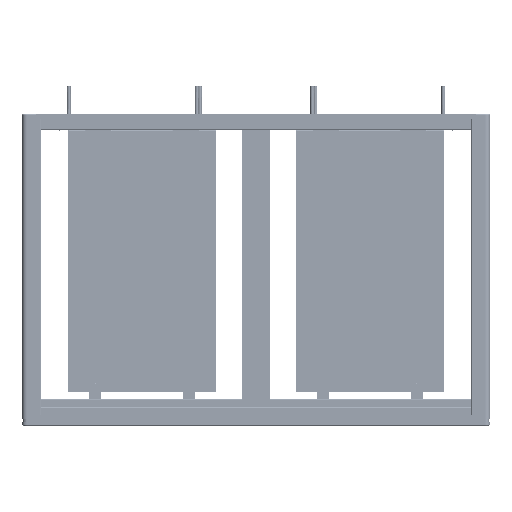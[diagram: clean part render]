
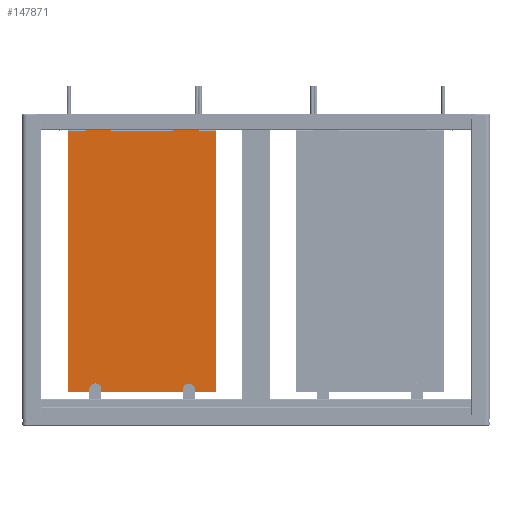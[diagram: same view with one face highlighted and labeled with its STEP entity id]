
A CAD part, left-side view. The second image highlights one B-rep face of the part: STEP entity #147871.
In plain terms, the highlighted planar face has unit normal (-1, 0, 0) as drawn and (0, 1, 0) by its records, which use the part's own axes.
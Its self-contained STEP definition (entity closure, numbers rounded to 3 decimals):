
#146514=CARTESIAN_POINT('',(-235.,4.,-417.));
#146515=DIRECTION('',(0.,-1.,0.));
#146516=DIRECTION('',(-1.,0.,0.));
#146517=AXIS2_PLACEMENT_3D('',#146514,#146515,#146516);
#146522=DIRECTION('',(1.,0.,0.));
#146523=VECTOR('',#146522,52.);
#146524=CARTESIAN_POINT('',(-235.,4.,-419.));
#146525=LINE('',#146524,#146523);
#146529=CARTESIAN_POINT('',(-183.,4.,-423.));
#146530=DIRECTION('',(0.,1.,0.));
#146531=DIRECTION('',(0.,0.,1.));
#146532=AXIS2_PLACEMENT_3D('',#146529,#146530,#146531);
#146537=DIRECTION('',(0.,0.,-1.));
#146538=VECTOR('',#146537,2.);
#146539=CARTESIAN_POINT('',(-179.,4.,
-423.));
#146540=LINE('',#146539,#146538);
#146544=CARTESIAN_POINT('',(-177.,4.,-425.));
#146545=DIRECTION('',(0.,-1.,0.));
#146546=DIRECTION('',(-1.,0.,0.));
#146547=AXIS2_PLACEMENT_3D('',#146544,#146545,#146546);
#146552=DIRECTION('',(1.,0.,0.));
#146553=VECTOR('',#146552,74.);
#146554=CARTESIAN_POINT('',(-177.,4.,
-427.));
#146555=LINE('',#146554,#146553);
#146559=CARTESIAN_POINT('',(-103.,4.,-425.));
#146560=DIRECTION('',(0.,-1.,0.));
#146561=DIRECTION('',(0.,0.,-1.));
#146562=AXIS2_PLACEMENT_3D('',#146559,#146560,#146561);
#146567=DIRECTION('',(0.,0.,1.));
#146568=VECTOR('',#146567,2.);
#146569=CARTESIAN_POINT('',(-101.,4.,
-425.));
#146570=LINE('',#146569,#146568);
#146574=CARTESIAN_POINT('',(-97.,4.,-423.));
#146575=DIRECTION('',(0.,1.,0.));
#146576=DIRECTION('',(-1.,0.,0.));
#146577=AXIS2_PLACEMENT_3D('',#146574,#146575,#146576);
#146582=DIRECTION('',(1.,0.,0.));
#146583=VECTOR('',#146582,194.);
#146584=CARTESIAN_POINT('',(-97.,4.,
-419.));
#146585=LINE('',#146584,#146583);
#146589=CARTESIAN_POINT('',(97.,4.,-423.));
#146590=DIRECTION('',(0.,1.,0.));
#146591=DIRECTION('',(0.,0.,1.));
#146592=AXIS2_PLACEMENT_3D('',#146589,#146590,#146591);
#146597=DIRECTION('',(0.,0.,-1.));
#146598=VECTOR('',#146597,2.);
#146599=CARTESIAN_POINT('',(101.,4.,
-423.));
#146600=LINE('',#146599,#146598);
#146604=CARTESIAN_POINT('',(103.,4.,-425.));
#146605=DIRECTION('',(0.,-1.,0.));
#146606=DIRECTION('',(-1.,0.,0.));
#146607=AXIS2_PLACEMENT_3D('',#146604,#146605,#146606);
#146612=DIRECTION('',(1.,0.,0.));
#146613=VECTOR('',#146612,74.);
#146614=CARTESIAN_POINT('',(103.,4.,
-427.));
#146615=LINE('',#146614,#146613);
#146619=CARTESIAN_POINT('',(177.,4.,-425.));
#146620=DIRECTION('',(0.,-1.,0.));
#146621=DIRECTION('',(0.,0.,-1.));
#146622=AXIS2_PLACEMENT_3D('',#146619,#146620,#146621);
#146627=DIRECTION('',(0.,0.,1.));
#146628=VECTOR('',#146627,2.);
#146629=CARTESIAN_POINT('',(179.,4.,
-425.));
#146630=LINE('',#146629,#146628);
#146634=CARTESIAN_POINT('',(183.,4.,-423.));
#146635=DIRECTION('',(0.,1.,0.));
#146636=DIRECTION('',(-1.,0.,0.));
#146637=AXIS2_PLACEMENT_3D('',#146634,#146635,#146636);
#146642=DIRECTION('',(1.,0.,0.));
#146643=VECTOR('',#146642,52.);
#146644=CARTESIAN_POINT('',(183.,4.,
-419.));
#146645=LINE('',#146644,#146643);
#146649=CARTESIAN_POINT('',(235.,4.,-417.));
#146650=DIRECTION('',(0.,-1.,0.));
#146651=DIRECTION('',(0.,0.,-1.));
#146652=AXIS2_PLACEMENT_3D('',#146649,#146650,#146651);
#146657=DIRECTION('',(0.,0.,1.));
#146658=VECTOR('',#146657,834.);
#146659=CARTESIAN_POINT('',(237.,4.,
-417.));
#146660=LINE('',#146659,#146658);
#146664=CARTESIAN_POINT('',(235.,4.,417.));
#146665=DIRECTION('',(0.,-1.,0.));
#146666=DIRECTION('',(1.,0.,0.));
#146667=AXIS2_PLACEMENT_3D('',#146664,#146665,#146666);
#146672=DIRECTION('',(-1.,0.,0.));
#146673=VECTOR('',#146672,470.);
#146674=CARTESIAN_POINT('',(235.,4.,
419.));
#146675=LINE('',#146674,#146673);
#146679=CARTESIAN_POINT('',(-235.,4.,417.));
#146680=DIRECTION('',(0.,-1.,0.));
#146681=DIRECTION('',(0.,0.,1.));
#146682=AXIS2_PLACEMENT_3D('',#146679,#146680,#146681);
#146687=DIRECTION('',(0.,0.,-1.));
#146688=VECTOR('',#146687,834.);
#146689=CARTESIAN_POINT('',(-237.,4.,
417.));
#146690=LINE('',#146689,#146688);
#147303=CARTESIAN_POINT('',(183.,4.,
-419.));
#147304=CARTESIAN_POINT('',(235.,4.,
-419.));
#147305=VERTEX_POINT('',#147303);
#147306=VERTEX_POINT('',#147304);
#147307=CARTESIAN_POINT('',(-237.,4.,-417.));
#147308=CARTESIAN_POINT('',(-235.,4.,-419.));
#147309=VERTEX_POINT('',#147307);
#147310=VERTEX_POINT('',#147308);
#147311=CARTESIAN_POINT('',(-183.,4.,-419.));
#147312=VERTEX_POINT('',#147311);
#147313=CARTESIAN_POINT('',(-179.,4.,-423.));
#147314=VERTEX_POINT('',#147313);
#147315=CARTESIAN_POINT('',(-179.,4.,
-425.));
#147316=VERTEX_POINT('',#147315);
#147317=CARTESIAN_POINT('',(-177.,4.,-427.));
#147318=VERTEX_POINT('',#147317);
#147319=CARTESIAN_POINT('',(-103.,4.,
-427.));
#147320=VERTEX_POINT('',#147319);
#147321=CARTESIAN_POINT('',(-101.,4.,-425.));
#147322=VERTEX_POINT('',#147321);
#147323=CARTESIAN_POINT('',(-101.,4.,
-423.));
#147324=VERTEX_POINT('',#147323);
#147325=CARTESIAN_POINT('',(-97.,4.,-419.));
#147326=VERTEX_POINT('',#147325);
#147327=CARTESIAN_POINT('',(97.,4.,
-419.));
#147328=VERTEX_POINT('',#147327);
#147329=CARTESIAN_POINT('',(101.,4.,-423.));
#147330=VERTEX_POINT('',#147329);
#147331=CARTESIAN_POINT('',(101.,4.,
-425.));
#147332=VERTEX_POINT('',#147331);
#147333=CARTESIAN_POINT('',(103.,4.,-427.));
#147334=VERTEX_POINT('',#147333);
#147335=CARTESIAN_POINT('',(177.,4.,
-427.));
#147336=VERTEX_POINT('',#147335);
#147337=CARTESIAN_POINT('',(179.,4.,-425.));
#147338=VERTEX_POINT('',#147337);
#147339=CARTESIAN_POINT('',(179.,4.,
-423.));
#147340=VERTEX_POINT('',#147339);
#147341=CARTESIAN_POINT('',(237.,4.,-417.));
#147342=VERTEX_POINT('',#147341);
#147343=CARTESIAN_POINT('',(237.,4.,
417.));
#147344=VERTEX_POINT('',#147343);
#147345=CARTESIAN_POINT('',(235.,4.,419.));
#147346=VERTEX_POINT('',#147345);
#147347=CARTESIAN_POINT('',(-235.,4.,
419.));
#147348=VERTEX_POINT('',#147347);
#147349=CARTESIAN_POINT('',(-237.,4.,417.));
#147350=VERTEX_POINT('',#147349);
#147817=CARTESIAN_POINT('',(0.,4.,0.));
#147818=DIRECTION('',(0.,1.,0.));
#147819=DIRECTION('',(1.,0.,0.));
#147820=AXIS2_PLACEMENT_3D('',#147817,#147818,#147819);
#147821=PLANE('',#147820);
#147823=ORIENTED_EDGE('',*,*,#147822,.T.);
#147825=ORIENTED_EDGE('',*,*,#147824,.T.);
#147827=ORIENTED_EDGE('',*,*,#147826,.T.);
#147829=ORIENTED_EDGE('',*,*,#147828,.T.);
#147831=ORIENTED_EDGE('',*,*,#147830,.T.);
#147833=ORIENTED_EDGE('',*,*,#147832,.T.);
#147835=ORIENTED_EDGE('',*,*,#147834,.T.);
#147837=ORIENTED_EDGE('',*,*,#147836,.T.);
#147839=ORIENTED_EDGE('',*,*,#147838,.T.);
#147841=ORIENTED_EDGE('',*,*,#147840,.T.);
#147843=ORIENTED_EDGE('',*,*,#147842,.T.);
#147845=ORIENTED_EDGE('',*,*,#147844,.T.);
#147847=ORIENTED_EDGE('',*,*,#147846,.T.);
#147849=ORIENTED_EDGE('',*,*,#147848,.T.);
#147851=ORIENTED_EDGE('',*,*,#147850,.T.);
#147853=ORIENTED_EDGE('',*,*,#147852,.T.);
#147855=ORIENTED_EDGE('',*,*,#147854,.T.);
#147856=ORIENTED_EDGE('',*,*,#147807,.T.);
#147858=ORIENTED_EDGE('',*,*,#147857,.T.);
#147860=ORIENTED_EDGE('',*,*,#147859,.T.);
#147862=ORIENTED_EDGE('',*,*,#147861,.T.);
#147864=ORIENTED_EDGE('',*,*,#147863,.T.);
#147866=ORIENTED_EDGE('',*,*,#147865,.T.);
#147868=ORIENTED_EDGE('',*,*,#147867,.T.);
#147869=EDGE_LOOP('',(#147823,#147825,#147827,#147829,#147831,#147833,#147835,
#147837,#147839,#147841,#147843,#147845,#147847,#147849,#147851,#147853,#147855,
#147856,#147858,#147860,#147862,#147864,#147866,#147868));
#147870=FACE_OUTER_BOUND('',#147869,.F.);
#146518=CIRCLE('',#146517,2.);
#146533=CIRCLE('',#146532,4.);
#146548=CIRCLE('',#146547,2.);
#146563=CIRCLE('',#146562,2.);
#146578=CIRCLE('',#146577,4.);
#146593=CIRCLE('',#146592,4.);
#146608=CIRCLE('',#146607,2.);
#146623=CIRCLE('',#146622,2.);
#146638=CIRCLE('',#146637,4.);
#146653=CIRCLE('',#146652,2.);
#146668=CIRCLE('',#146667,2.);
#146683=CIRCLE('',#146682,2.);
#147807=EDGE_CURVE('',#147305,#147306,#146645,.T.);
#147822=EDGE_CURVE('',#147309,#147310,#146518,.T.);
#147824=EDGE_CURVE('',#147310,#147312,#146525,.T.);
#147826=EDGE_CURVE('',#147312,#147314,#146533,.T.);
#147828=EDGE_CURVE('',#147314,#147316,#146540,.T.);
#147830=EDGE_CURVE('',#147316,#147318,#146548,.T.);
#147832=EDGE_CURVE('',#147318,#147320,#146555,.T.);
#147834=EDGE_CURVE('',#147320,#147322,#146563,.T.);
#147836=EDGE_CURVE('',#147322,#147324,#146570,.T.);
#147838=EDGE_CURVE('',#147324,#147326,#146578,.T.);
#147840=EDGE_CURVE('',#147326,#147328,#146585,.T.);
#147842=EDGE_CURVE('',#147328,#147330,#146593,.T.);
#147844=EDGE_CURVE('',#147330,#147332,#146600,.T.);
#147846=EDGE_CURVE('',#147332,#147334,#146608,.T.);
#147848=EDGE_CURVE('',#147334,#147336,#146615,.T.);
#147850=EDGE_CURVE('',#147336,#147338,#146623,.T.);
#147852=EDGE_CURVE('',#147338,#147340,#146630,.T.);
#147854=EDGE_CURVE('',#147340,#147305,#146638,.T.);
#147857=EDGE_CURVE('',#147306,#147342,#146653,.T.);
#147859=EDGE_CURVE('',#147342,#147344,#146660,.T.);
#147861=EDGE_CURVE('',#147344,#147346,#146668,.T.);
#147863=EDGE_CURVE('',#147346,#147348,#146675,.T.);
#147865=EDGE_CURVE('',#147348,#147350,#146683,.T.);
#147867=EDGE_CURVE('',#147350,#147309,#146690,.T.);
#147871=ADVANCED_FACE('',(#147870),#147821,.T.);
